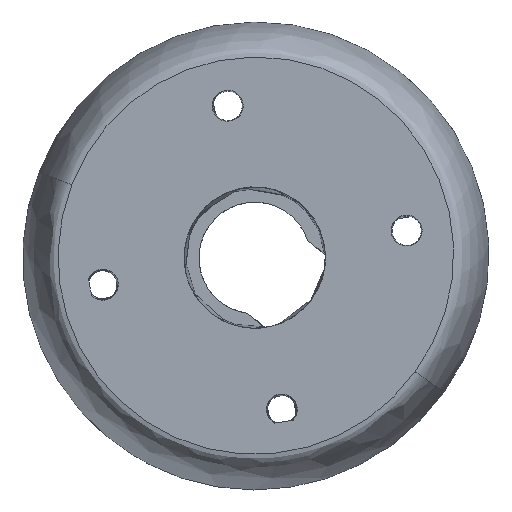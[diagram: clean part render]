
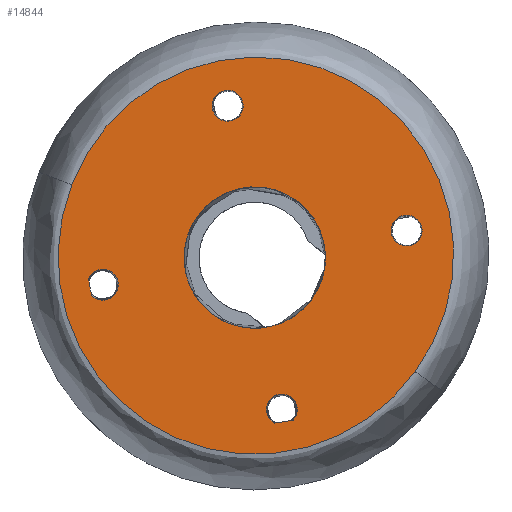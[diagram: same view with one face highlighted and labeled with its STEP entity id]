
A CAD part, top view. The second image highlights one B-rep face of the part: STEP entity #14844.
In plain terms, the highlighted planar face has unit normal (0, 0, 1).
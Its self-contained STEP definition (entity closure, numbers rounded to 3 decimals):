
#831 = EDGE_LOOP ( 'NONE', ( #6349 ) ) ;
#836 = EDGE_LOOP ( 'NONE', ( #6195, #5981 ) ) ;
#882 = EDGE_LOOP ( 'NONE', ( #6234, #6311 ) ) ;
#943 = EDGE_LOOP ( 'NONE', ( #13711, #6353 ) ) ;
#964 = EDGE_LOOP ( 'NONE', ( #6355 ) ) ;
#1035 = EDGE_LOOP ( 'NONE', ( #6362 ) ) ;
#1086 = VERTEX_POINT ( 'NONE', #10057 ) ;
#1090 = VERTEX_POINT ( 'NONE', #10061 ) ;
#1092 = VERTEX_POINT ( 'NONE', #10063 ) ;
#1817 = CIRCLE ( 'NONE', #14491, 1.8 ) ;
#1825 = CIRCLE ( 'NONE', #14488, 1.8 ) ;
#1829 = CIRCLE ( 'NONE', #14487, 22.942 ) ;
#1860 = CIRCLE ( 'NONE', #14481, 1.8 ) ;
#1862 = CIRCLE ( 'NONE', #14479, 19.752 ) ;
#1867 = CIRCLE ( 'NONE', #14472, 8.234 ) ;
#1957 = CIRCLE ( 'NONE', #14474, 1.8 ) ;
#2053 = CIRCLE ( 'NONE', #14467, 19.752 ) ;
#2061 = CIRCLE ( 'NONE', #14465, 22.885 ) ;
#4579 = DIRECTION ( 'NONE',  ( -0.392, 0.92, 0. ) ) ;
#4581 = DIRECTION ( 'NONE',  ( 0., 0., -1. ) ) ;
#4582 = CARTESIAN_POINT ( 'NONE',  ( 27.984, 2.451, 0. ) ) ;
#4670 = DIRECTION ( 'NONE',  ( -0.92, -0.392, 0. ) ) ;
#4671 = CARTESIAN_POINT ( 'NONE',  ( 42.507, 23.273, 0. ) ) ;
#4672 = DIRECTION ( 'NONE',  ( 0., 0., -1. ) ) ;
#4682 = DIRECTION ( 'NONE',  ( 0.92, 0.392, 0. ) ) ;
#4687 = CARTESIAN_POINT ( 'NONE',  ( 25.048, 20.516, 0. ) ) ;
#4689 = DIRECTION ( 'NONE',  ( 0., 0., 1. ) ) ;
#4690 = CARTESIAN_POINT ( 'NONE',  ( 24.834, 20.124, 0. ) ) ;
#4727 = DIRECTION ( 'NONE',  ( 0.81, -0.586, 0. ) ) ;
#4764 = DIRECTION ( 'NONE',  ( 0., 0., -1. ) ) ;
#4765 = CARTESIAN_POINT ( 'NONE',  ( 25.048, 20.516, 0. ) ) ;
#4770 = DIRECTION ( 'NONE',  ( 0.92, 0.392, 0. ) ) ;
#4772 = DIRECTION ( 'NONE',  ( 0., 0., -1. ) ) ;
#4773 = CARTESIAN_POINT ( 'NONE',  ( 7.161, 16.974, 0. ) ) ;
#4778 = DIRECTION ( 'NONE',  ( 0.92, 0.392, 0. ) ) ;
#4779 = DIRECTION ( 'NONE',  ( 0., 0., -1. ) ) ;
#4780 = CARTESIAN_POINT ( 'NONE',  ( 24.834, 20.124, 0. ) ) ;
#4801 = DIRECTION ( 'NONE',  ( 0.81, -0.586, 0. ) ) ;
#4802 = DIRECTION ( 'NONE',  ( 0., 0., -1. ) ) ;
#4821 = CARTESIAN_POINT ( 'NONE',  ( 25.048, 20.516, 0. ) ) ;
#4822 = DIRECTION ( 'NONE',  ( 0., 0., -1. ) ) ;
#4828 = CARTESIAN_POINT ( 'NONE',  ( 21.684, 37.797, 0. ) ) ;
#4829 = DIRECTION ( 'NONE',  ( 0., 0., -1. ) ) ;
#4830 = DIRECTION ( 'NONE',  ( 0.392, -0.92, 0. ) ) ;
#4861 = DIRECTION ( 'NONE',  ( 0.81, -0.586, 0. ) ) ;
#5981 = ORIENTED_EDGE ( 'NONE', *, *, #14200, .T. ) ;
#6195 = ORIENTED_EDGE ( 'NONE', *, *, #14208, .T. ) ;
#6234 = ORIENTED_EDGE ( 'NONE', *, *, #14238, .T. ) ;
#6311 = ORIENTED_EDGE ( 'NONE', *, *, #14191, .T. ) ;
#6349 = ORIENTED_EDGE ( 'NONE', *, *, #14198, .T. ) ;
#6353 = ORIENTED_EDGE ( 'NONE', *, *, #14232, .F. ) ;
#6355 = ORIENTED_EDGE ( 'NONE', *, *, #14235, .T. ) ;
#6362 = ORIENTED_EDGE ( 'NONE', *, *, #14211, .T. ) ;
#6585 = VERTEX_POINT ( 'NONE', #11402 ) ;
#6587 = VERTEX_POINT ( 'NONE', #11401 ) ;
#6623 = VERTEX_POINT ( 'NONE', #11379 ) ;
#6783 = VERTEX_POINT ( 'NONE', #11278 ) ;
#6934 = VERTEX_POINT ( 'NONE', #11239 ) ;
#6940 = VERTEX_POINT ( 'NONE', #11235 ) ;
#9208 = FACE_BOUND ( 'NONE', #964, .T. ) ;
#9211 = FACE_BOUND ( 'NONE', #882, .T. ) ;
#9213 = FACE_BOUND ( 'NONE', #831, .T. ) ;
#9215 = FACE_BOUND ( 'NONE', #1035, .T. ) ;
#9217 = FACE_BOUND ( 'NONE', #836, .T. ) ;
#9218 = FACE_OUTER_BOUND ( 'NONE', #943, .T. ) ;
#10057 = CARTESIAN_POINT ( 'NONE',  ( 32.408, 23.353, 0. ) ) ;
#10061 = CARTESIAN_POINT ( 'NONE',  ( 22.391, 36.141, 0. ) ) ;
#10063 = CARTESIAN_POINT ( 'NONE',  ( 40.852, 22.567, 0. ) ) ;
#10257 = AXIS2_PLACEMENT_3D ( 'NONE', #12005, #12004, #12009 ) ;
#11235 = CARTESIAN_POINT ( 'NONE',  ( 5.893, 15.696, 0. ) ) ;
#11239 = CARTESIAN_POINT ( 'NONE',  ( 43.5, 6.883, 0. ) ) ;
#11278 = CARTESIAN_POINT ( 'NONE',  ( 3.576, 28.595, 0. ) ) ;
#11379 = CARTESIAN_POINT ( 'NONE',  ( 27.118, 0.873, 0. ) ) ;
#11401 = CARTESIAN_POINT ( 'NONE',  ( 29.306, 1.229, 0. ) ) ;
#11402 = CARTESIAN_POINT ( 'NONE',  ( 5.502, 17.671, 0. ) ) ;
#11996 = PLANE ( 'NONE',  #10257 ) ;
#12004 = DIRECTION ( 'NONE',  ( 0., 0., 1. ) ) ;
#12005 = CARTESIAN_POINT ( 'NONE',  ( 24.834, 20.124, 0. ) ) ;
#12009 = DIRECTION ( 'NONE',  ( -0.586, -0.81, 0. ) ) ;
#13711 = ORIENTED_EDGE ( 'NONE', *, *, #14189, .T. ) ;
#14189 = EDGE_CURVE ( 'NONE', #6783, #6934, #2061, .T. ) ;
#14191 = EDGE_CURVE ( 'NONE', #6587, #6623, #2053, .T. ) ;
#14198 = EDGE_CURVE ( 'NONE', #1086, #1086, #1867, .T. ) ;
#14200 = EDGE_CURVE ( 'NONE', #6585, #6940, #1957, .T. ) ;
#14208 = EDGE_CURVE ( 'NONE', #6940, #6585, #1862, .T. ) ;
#14211 = EDGE_CURVE ( 'NONE', #1090, #1090, #1860, .T. ) ;
#14232 = EDGE_CURVE ( 'NONE', #6783, #6934, #1829, .T. ) ;
#14235 = EDGE_CURVE ( 'NONE', #1092, #1092, #1825, .T. ) ;
#14238 = EDGE_CURVE ( 'NONE', #6623, #6587, #1817, .T. ) ;
#14465 = AXIS2_PLACEMENT_3D ( 'NONE', #4690, #4689, #4682 ) ;
#14467 = AXIS2_PLACEMENT_3D ( 'NONE', #4687, #4802, #4801 ) ;
#14472 = AXIS2_PLACEMENT_3D ( 'NONE', #4780, #4779, #4778 ) ;
#14474 = AXIS2_PLACEMENT_3D ( 'NONE', #4773, #4772, #4770 ) ;
#14479 = AXIS2_PLACEMENT_3D ( 'NONE', #4821, #4822, #4861 ) ;
#14481 = AXIS2_PLACEMENT_3D ( 'NONE', #4828, #4829, #4830 ) ;
#14487 = AXIS2_PLACEMENT_3D ( 'NONE', #4765, #4764, #4727 ) ;
#14488 = AXIS2_PLACEMENT_3D ( 'NONE', #4671, #4672, #4670 ) ;
#14491 = AXIS2_PLACEMENT_3D ( 'NONE', #4582, #4581, #4579 ) ;
#14844 = ADVANCED_FACE ( 'NONE', ( #9211, #9217, #9213, #9208, #9215, #9218 ), #11996, .T. ) ;
